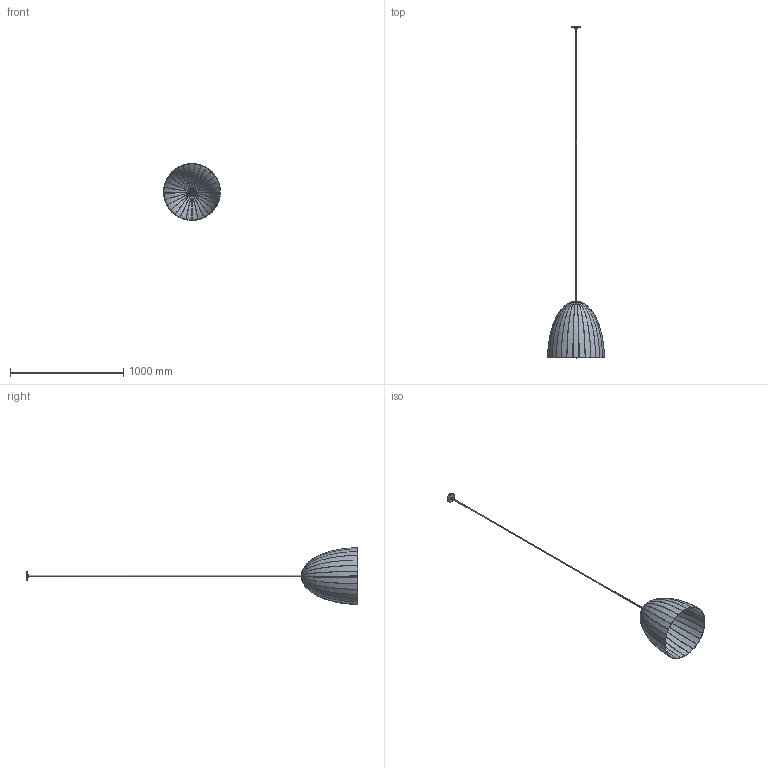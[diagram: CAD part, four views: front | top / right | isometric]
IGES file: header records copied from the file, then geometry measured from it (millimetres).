
Start section: SolidWorks IGES file using analytic representation for surfaces
Global section: file name: C:\Users\danielet\Desktop\3D CARLOS\MOYANA-C3926-3D\MOYANA-C3926-3D.IGS; native system: SolidWorks 2018; preprocessor: SolidWorks 2018; author: danielet; date: 220128.102514; units: millimetre
Bounding box: 500 x 2925 x 500 mm (x, y, z)
Surface area: 1460371 mm2 (no closed solid volume)
Topology: 0 solids, 0 shells, 160 faces, 5127 edges, 5127 vertices
Faces by surface type: bspline 96, revolution 64
